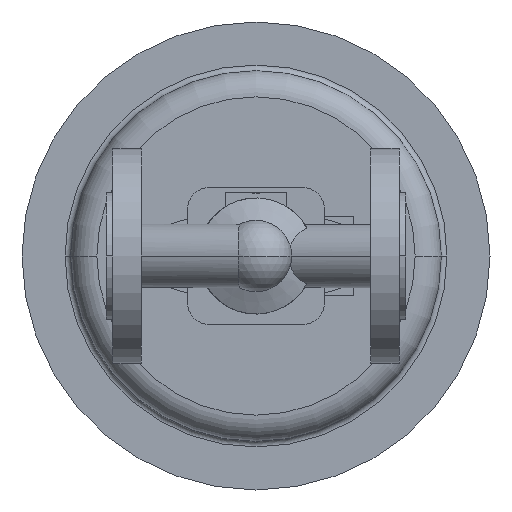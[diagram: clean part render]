
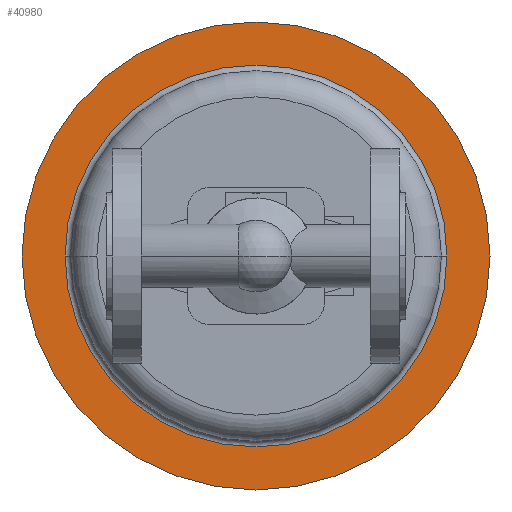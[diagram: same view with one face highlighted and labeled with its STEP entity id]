
A CAD part, front view. The second image highlights one B-rep face of the part: STEP entity #40980.
In plain terms, the highlighted planar face has unit normal (0, -1, 0).
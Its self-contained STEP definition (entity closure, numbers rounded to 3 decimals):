
#32460=CARTESIAN_POINT('',(205.,383.,0.));
#32470=VERTEX_POINT('',#32460);
#32500=CARTESIAN_POINT('',(80.,383.,0.));
#32510=DIRECTION('',(0.,1.,0.));
#32520=DIRECTION('',(1.,0.,0.));
#32530=AXIS2_PLACEMENT_3D('',#32500,#32510,#32520);
#32540=CIRCLE('',#32530,125.);
#32550=CARTESIAN_POINT('',(-45.,383.,0.));
#32560=VERTEX_POINT('',#32550);
#32570=EDGE_CURVE('',#32560,#32470,#32540,.T.);
#32890=CARTESIAN_POINT('',(182.,383.,0.));
#32900=VERTEX_POINT('',#32890);
#32930=CARTESIAN_POINT('',(80.,383.,0.));
#32940=DIRECTION('',(0.,1.,0.));
#32950=DIRECTION('',(1.,0.,0.));
#32960=AXIS2_PLACEMENT_3D('',#32930,#32940,#32950);
#32970=CIRCLE('',#32960,102.);
#32980=CARTESIAN_POINT('',(-22.,383.,0.));
#32990=VERTEX_POINT('',#32980);
#33000=EDGE_CURVE('',#32900,#32990,#32970,.T.);
#40830=CARTESIAN_POINT('',(193.5,383.,0.));
#40840=DIRECTION('',(0.,-1.,0.));
#40850=DIRECTION('',(-1.,0.,0.));
#40860=AXIS2_PLACEMENT_3D('',#40830,#40840,#40850);
#40870=PLANE('',#40860);
#40880=ORIENTED_EDGE('',*,*,#32570,.F.);
#40890=EDGE_CURVE('',#32470,#32560,#32540,.T.);
#40900=ORIENTED_EDGE('',*,*,#40890,.F.);
#40910=EDGE_LOOP('',(#40900,#40880));
#40920=FACE_OUTER_BOUND('',#40910,.T.);
#40930=ORIENTED_EDGE('',*,*,#33000,.T.);
#40940=EDGE_CURVE('',#32990,#32900,#32970,.T.);
#40950=ORIENTED_EDGE('',*,*,#40940,.T.);
#40960=EDGE_LOOP('',(#40950,#40930));
#40970=FACE_BOUND('',#40960,.T.);
#40980=ADVANCED_FACE('',(#40920,#40970),#40870,.T.);
